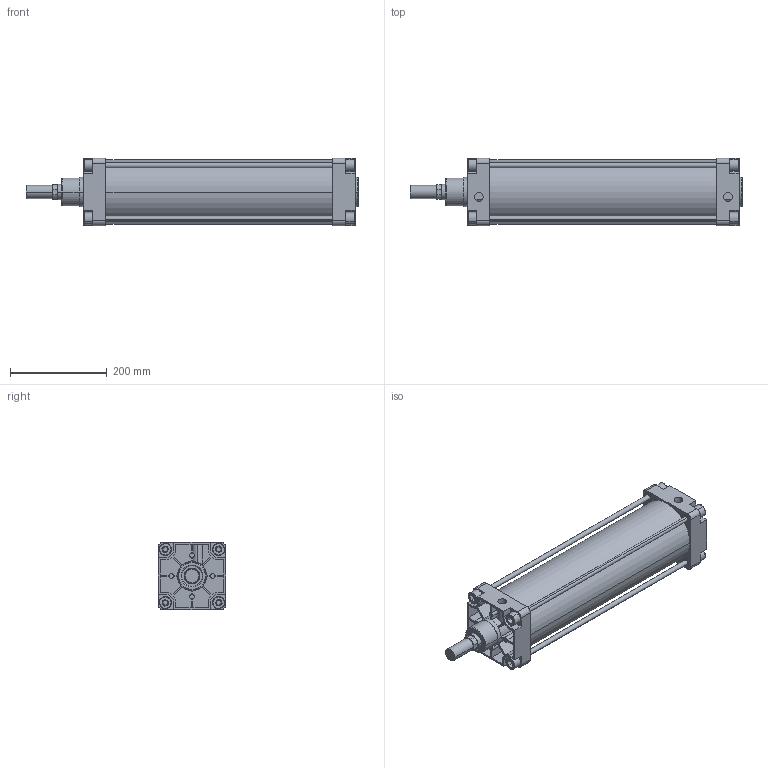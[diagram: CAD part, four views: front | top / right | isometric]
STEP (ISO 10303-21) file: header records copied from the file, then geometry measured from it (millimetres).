
FILE_DESCRIPTION(('CATIA V5 STEP Exchange'),'2;1');
FILE_NAME('D:\stp file for catalog\PNC\125\PNC 125-32-400-00.stp','2015-09-13T12:08:42+00:00',('none'),('none'),'Version 5-6 Release 2012','CATIA V5 STEP AP203','none');
FILE_SCHEMA(('CONFIG_CONTROL_DESIGN'));
Length unit declared in the file: millimetre
Products named in the file (1): PNC 125-32-400-00
Assembly tree (2 placements, depth 2):
  PNC 125-32-400-00
    #58
    #14773
Bounding box: 685 x 139 x 139 mm (x, y, z)
Volume: 3339078.1 mm3; surface area: 787760.7 mm2
Topology: 7 solids, 11 shells, 557 faces, 1420 edges, 938 vertices
Faces by surface type: plane 337, cylinder 174, torus 24, extrusion 16, cone 6
Entity records: 15682 total; most frequent: CARTESIAN_POINT 3254, ORIENTED_EDGE 2840, DIRECTION 1937, EDGE_CURVE 1420, VERTEX_POINT 938, VECTOR 903, LINE 887, AXIS2_PLACEMENT_3D 735
